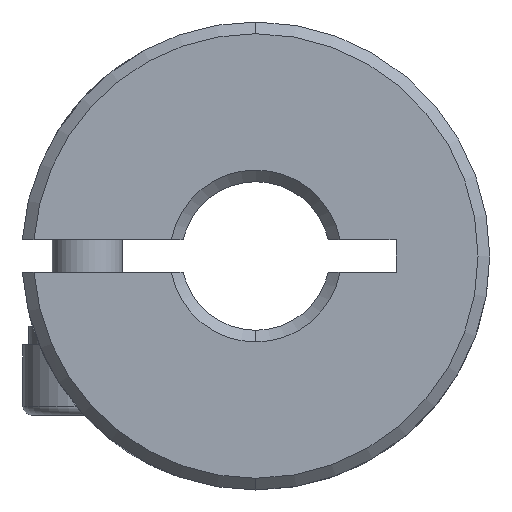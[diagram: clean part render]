
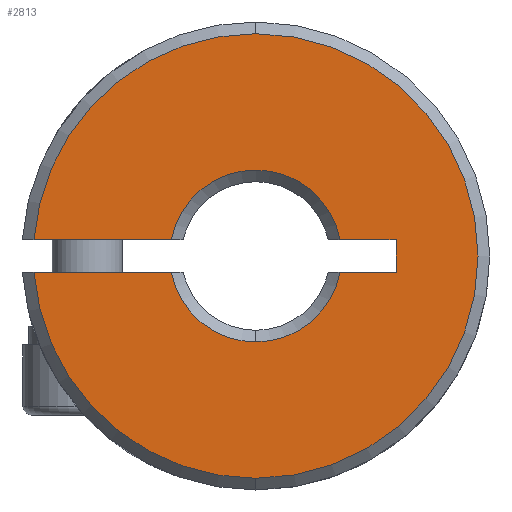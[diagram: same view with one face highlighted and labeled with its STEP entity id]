
A CAD part, front view. The second image highlights one B-rep face of the part: STEP entity #2813.
In plain terms, the highlighted planar face has unit normal (0, -1, 0).
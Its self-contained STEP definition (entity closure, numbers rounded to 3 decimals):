
#5 = ORIENTED_EDGE ( 'NONE', *, *, #3322, .F. ) ;
#48 = DIRECTION ( 'NONE',  ( 0., -1., 0. ) ) ;
#163 = LINE ( 'NONE', #2184, #351 ) ;
#225 = DIRECTION ( 'NONE',  ( 1., 0., 0. ) ) ;
#274 = CARTESIAN_POINT ( 'NONE',  ( 6., 0.25, -0.7 ) ) ;
#275 = VECTOR ( 'NONE', #467, 1000. ) ;
#315 = EDGE_CURVE ( 'NONE', #2502, #2505, #163, .T. ) ;
#323 = PLANE ( 'NONE',  #1067 ) ;
#338 = VERTEX_POINT ( 'NONE', #1324 ) ;
#342 = DIRECTION ( 'NONE',  ( 0., -1., 0. ) ) ;
#351 = VECTOR ( 'NONE', #1338, 1000. ) ;
#467 = DIRECTION ( 'NONE',  ( -1., 0., 0. ) ) ;
#505 = LINE ( 'NONE', #655, #697 ) ;
#517 = CARTESIAN_POINT ( 'NONE',  ( 0., 0.25, 0. ) ) ;
#536 = CARTESIAN_POINT ( 'NONE',  ( 6., 0.25, -0.7 ) ) ;
#552 = LINE ( 'NONE', #536, #2179 ) ;
#588 = VERTEX_POINT ( 'NONE', #2729 ) ;
#621 = ORIENTED_EDGE ( 'NONE', *, *, #665, .T. ) ;
#632 = CARTESIAN_POINT ( 'NONE',  ( -50., 0.25, 12. ) ) ;
#642 = CIRCLE ( 'NONE', #1254, 3.675 ) ;
#655 = CARTESIAN_POINT ( 'NONE',  ( 6., 0.25, -0.7 ) ) ;
#664 = CIRCLE ( 'NONE', #2973, 9.5 ) ;
#665 = EDGE_CURVE ( 'NONE', #2502, #588, #642, .T. ) ;
#697 = VECTOR ( 'NONE', #2378, 1000. ) ;
#785 = CARTESIAN_POINT ( 'NONE',  ( 0., 0.25, 0. ) ) ;
#794 = DIRECTION ( 'NONE',  ( 0., 0., 1. ) ) ;
#848 = ORIENTED_EDGE ( 'NONE', *, *, #1944, .T. ) ;
#853 = EDGE_CURVE ( 'NONE', #3018, #588, #1782, .T. ) ;
#938 = CARTESIAN_POINT ( 'NONE',  ( 0., 0.25, 0. ) ) ;
#980 = ORIENTED_EDGE ( 'NONE', *, *, #2681, .T. ) ;
#1053 = CIRCLE ( 'NONE', #2094, 3.675 ) ;
#1063 = CARTESIAN_POINT ( 'NONE',  ( 3.608, 0.25, -0.7 ) ) ;
#1067 = AXIS2_PLACEMENT_3D ( 'NONE', #632, #1774, #2650 ) ;
#1135 = DIRECTION ( 'NONE',  ( 0., 0., 1. ) ) ;
#1162 = EDGE_CURVE ( 'NONE', #1323, #2505, #1864, .T. ) ;
#1224 = VECTOR ( 'NONE', #1135, 1000. ) ;
#1254 = AXIS2_PLACEMENT_3D ( 'NONE', #517, #1701, #3708 ) ;
#1264 = EDGE_CURVE ( 'NONE', #1945, #338, #552, .T. ) ;
#1323 = VERTEX_POINT ( 'NONE', #2250 ) ;
#1324 = CARTESIAN_POINT ( 'NONE',  ( -3.608, 0.25, -0.7 ) ) ;
#1338 = DIRECTION ( 'NONE',  ( -1., 0., 0. ) ) ;
#1343 = CARTESIAN_POINT ( 'NONE',  ( -9.474, 0.25, -0.7 ) ) ;
#1471 = LINE ( 'NONE', #2313, #1224 ) ;
#1483 = ORIENTED_EDGE ( 'NONE', *, *, #853, .F. ) ;
#1493 = VERTEX_POINT ( 'NONE', #1644 ) ;
#1561 = EDGE_CURVE ( 'NONE', #2469, #1729, #505, .T. ) ;
#1623 = CARTESIAN_POINT ( 'NONE',  ( 0., 0.25, 0. ) ) ;
#1644 = CARTESIAN_POINT ( 'NONE',  ( 0., 0.25, -9.5 ) ) ;
#1656 = CARTESIAN_POINT ( 'NONE',  ( 0., 0.25, 0. ) ) ;
#1701 = DIRECTION ( 'NONE',  ( 0., 1., 0. ) ) ;
#1729 = VERTEX_POINT ( 'NONE', #274 ) ;
#1774 = DIRECTION ( 'NONE',  ( 0., 1., 0. ) ) ;
#1782 = LINE ( 'NONE', #2218, #275 ) ;
#1804 = ORIENTED_EDGE ( 'NONE', *, *, #1162, .T. ) ;
#1864 = CIRCLE ( 'NONE', #2307, 9.5 ) ;
#1894 = DIRECTION ( 'NONE',  ( 0., -1., 0. ) ) ;
#1936 = ORIENTED_EDGE ( 'NONE', *, *, #315, .F. ) ;
#1944 = EDGE_CURVE ( 'NONE', #2469, #3379, #2520, .T. ) ;
#1945 = VERTEX_POINT ( 'NONE', #1343 ) ;
#1974 = CARTESIAN_POINT ( 'NONE',  ( 6., 0.25, 0.7 ) ) ;
#2007 = EDGE_CURVE ( 'NONE', #1945, #1493, #664, .T. ) ;
#2094 = AXIS2_PLACEMENT_3D ( 'NONE', #1656, #3643, #794 ) ;
#2107 = EDGE_LOOP ( 'NONE', ( #2130, #2628, #980, #1804, #1936, #621, #1483, #5, #3437, #848, #2803 ) ) ;
#2130 = ORIENTED_EDGE ( 'NONE', *, *, #1264, .F. ) ;
#2179 = VECTOR ( 'NONE', #225, 1000. ) ;
#2184 = CARTESIAN_POINT ( 'NONE',  ( 6., 0.25, 0.7 ) ) ;
#2218 = CARTESIAN_POINT ( 'NONE',  ( 6., 0.25, 0.7 ) ) ;
#2250 = CARTESIAN_POINT ( 'NONE',  ( 0., 0.25, 9.5 ) ) ;
#2267 = CARTESIAN_POINT ( 'NONE',  ( -9.474, 0.25, 0.7 ) ) ;
#2294 = AXIS2_PLACEMENT_3D ( 'NONE', #3747, #342, #2390 ) ;
#2307 = AXIS2_PLACEMENT_3D ( 'NONE', #938, #48, #3261 ) ;
#2313 = CARTESIAN_POINT ( 'NONE',  ( 6., 0.25, 0.7 ) ) ;
#2378 = DIRECTION ( 'NONE',  ( 1., 0., 0. ) ) ;
#2390 = DIRECTION ( 'NONE',  ( 0., 0., 1. ) ) ;
#2395 = AXIS2_PLACEMENT_3D ( 'NONE', #1623, #2776, #2821 ) ;
#2469 = VERTEX_POINT ( 'NONE', #1063 ) ;
#2502 = VERTEX_POINT ( 'NONE', #3152 ) ;
#2505 = VERTEX_POINT ( 'NONE', #2267 ) ;
#2520 = CIRCLE ( 'NONE', #2395, 3.675 ) ;
#2628 = ORIENTED_EDGE ( 'NONE', *, *, #2007, .T. ) ;
#2650 = DIRECTION ( 'NONE',  ( 0., 0., 1. ) ) ;
#2681 = EDGE_CURVE ( 'NONE', #1493, #1323, #3240, .T. ) ;
#2729 = CARTESIAN_POINT ( 'NONE',  ( 3.608, 0.25, 0.7 ) ) ;
#2776 = DIRECTION ( 'NONE',  ( 0., 1., 0. ) ) ;
#2803 = ORIENTED_EDGE ( 'NONE', *, *, #3272, .T. ) ;
#2806 = DIRECTION ( 'NONE',  ( 0., 0., 1. ) ) ;
#2813 = ADVANCED_FACE ( 'NONE', ( #3157 ), #323, .F. ) ;
#2821 = DIRECTION ( 'NONE',  ( 0., 0., 1. ) ) ;
#2832 = CARTESIAN_POINT ( 'NONE',  ( 0., 0.25, -3.675 ) ) ;
#2973 = AXIS2_PLACEMENT_3D ( 'NONE', #785, #1894, #2806 ) ;
#3018 = VERTEX_POINT ( 'NONE', #1974 ) ;
#3152 = CARTESIAN_POINT ( 'NONE',  ( -3.608, 0.25, 0.7 ) ) ;
#3157 = FACE_OUTER_BOUND ( 'NONE', #2107, .T. ) ;
#3240 = CIRCLE ( 'NONE', #2294, 9.5 ) ;
#3261 = DIRECTION ( 'NONE',  ( 0., 0., 1. ) ) ;
#3272 = EDGE_CURVE ( 'NONE', #3379, #338, #1053, .T. ) ;
#3322 = EDGE_CURVE ( 'NONE', #1729, #3018, #1471, .T. ) ;
#3379 = VERTEX_POINT ( 'NONE', #2832 ) ;
#3437 = ORIENTED_EDGE ( 'NONE', *, *, #1561, .F. ) ;
#3643 = DIRECTION ( 'NONE',  ( 0., 1., 0. ) ) ;
#3708 = DIRECTION ( 'NONE',  ( 0., 0., 1. ) ) ;
#3747 = CARTESIAN_POINT ( 'NONE',  ( 0., 0.25, 0. ) ) ;
